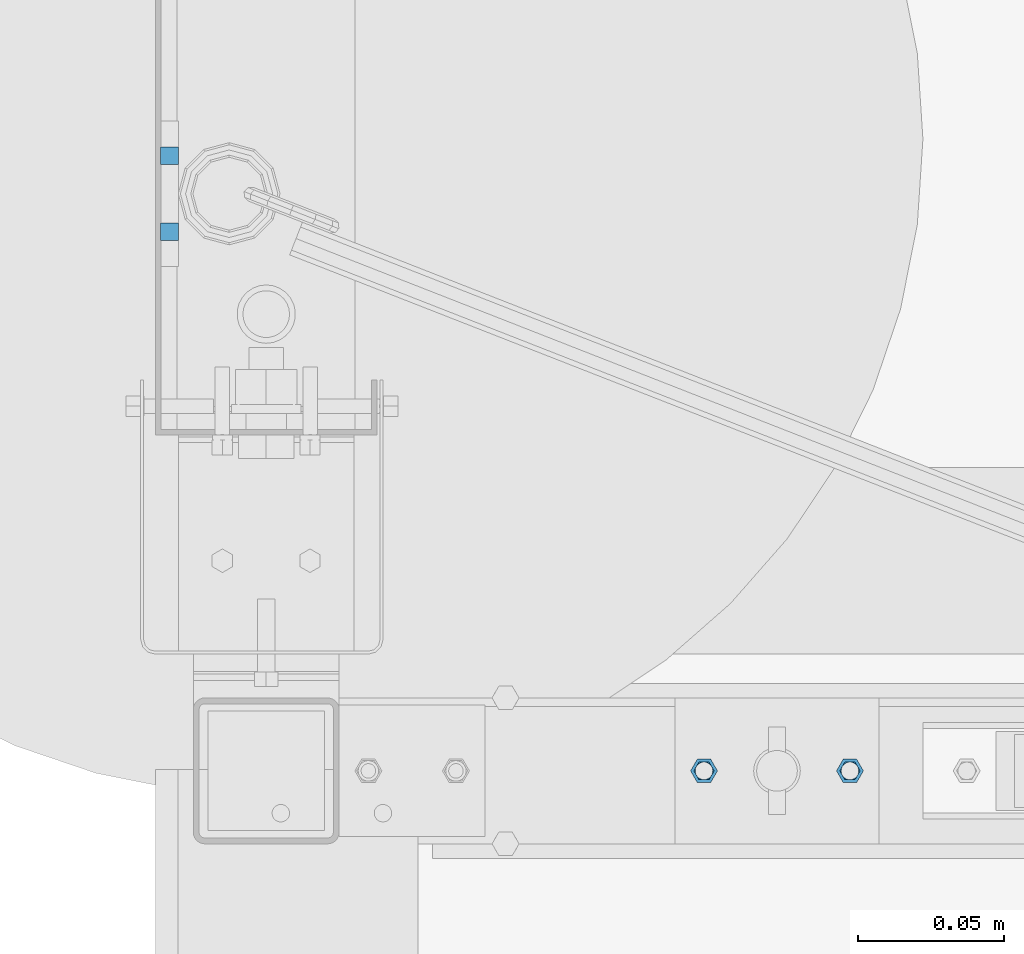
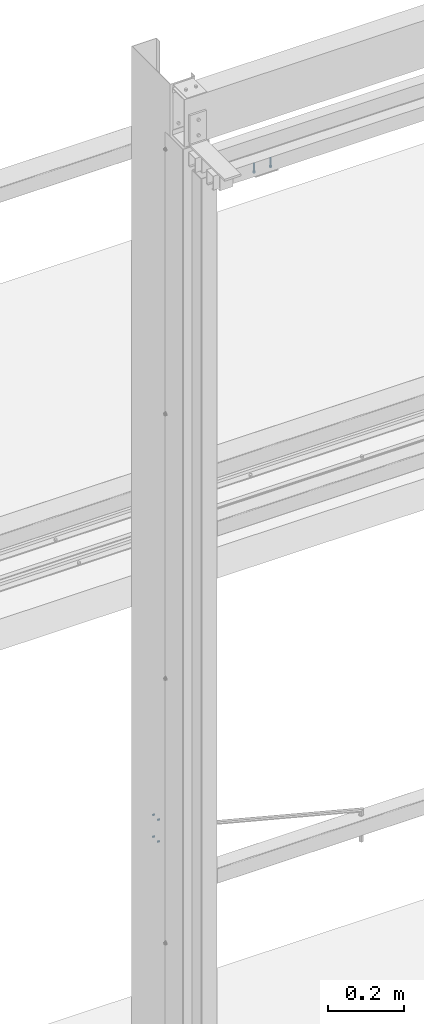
# One storey, part 25 of 91: 6 mechanical fasteners, 2 elements without a shape of their own.
"""IFC2X3 building model written with IfcOpenShell, lengths in millimetres."""

from ifc_helpers import new_model, si_unit, frame, origin_with_axes, origin_2d_with_axis, place, context, subcontext, project, spatial, polyline, circle, outline, extrude, source, transform, mapped, material, type_object, element, aggregate, save


model = new_model("IFC2X3")

# Units and contexts
model_context = context("Model", 3, precision=1e-05, world=origin_with_axes())
body_context = subcontext(model_context, "Body", "Model", "MODEL_VIEW")
ifc_project = project(units=[si_unit("LENGTHUNIT", "METRE", prefix="MILLI"), si_unit("AREAUNIT", "SQUARE_METRE"), si_unit("VOLUMEUNIT", "CUBIC_METRE"), si_unit("MASSUNIT", "GRAM", prefix="KILO"), si_unit("TIMEUNIT", "SECOND"), si_unit("PLANEANGLEUNIT", "RADIAN"), si_unit("SOLIDANGLEUNIT", "STERADIAN"), si_unit("THERMODYNAMICTEMPERATUREUNIT", "DEGREE_CELSIUS"), si_unit("LUMINOUSINTENSITYUNIT", "LUMEN")], contexts=[model_context])

# Site, building, storey
site_placement = place(None, origin_with_axes())
site = spatial("IfcSite", under=ifc_project, at=site_placement, Name="Undefined", CompositionType="ELEMENT")
building_placement = place(site_placement, origin_with_axes())
building = spatial("IfcBuilding", under=site, at=building_placement, Name="Undefined", CompositionType="ELEMENT")
storey_placement = place(building_placement, origin_with_axes())
storey = spatial("IfcBuildingStorey", under=building, at=storey_placement, Name="Undefined", CompositionType="ELEMENT", Elevation=0.0)

# Assembly, mechanical fasteners
assembly_1_placement = place(storey_placement, origin_with_axes())
assembly_1 = element("IfcElementAssembly", 1, at=assembly_1_placement, inside=storey, Name="SLIDING DOOR", AssemblyPlace="NOTDEFINED", PredefinedType="RIGID_FRAME")
ifc_material_1 = material(Name="TEK_11TPIM")
discrete_accessory_type = type_object("IfcDiscreteAccessoryType", Name="Bolt assembly")
shared_shape_1 = source(origin_with_axes(), body_context, "Body", "SweptSolid", [
    extrude(circle(Radius=3.0, at=origin_2d_with_axis()), frame((0.0, 0.0, 0.0), z_axis=(0.0, 1.0, 0.0), x_axis=(1.0, 0.0, 0.0)), (0.0, 0.0, 1.0), 2.1),
    extrude(outline(polyline([(4.61880215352, 0.0), (2.30940107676, 4.00000000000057), (-2.30940107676, 4.00000000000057), (-4.61880215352, 0.0), (-2.30940107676, -4.00000000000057), (2.30940107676, -4.00000000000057), (4.61880215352, 0.0)])), frame((0.0, -5.0, 0.0), z_axis=(0.0, 1.0, 0.0), x_axis=(1.0, 0.0, 0.0)), (0.0, 0.0, 1.0), 5.0),
    extrude(circle(Radius=3.0, at=origin_2d_with_axis()), frame((0.0, 0.0, 0.0), z_axis=(0.0, 1.0, 0.0), x_axis=(1.0, 0.0, 0.0)), (0.0, 0.0, 1.0), 25.0),
    extrude(circle(Radius=3.0, at=origin_2d_with_axis()), frame((0.0, 2.00000000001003, 0.0), z_axis=(0.0, 1.0, 0.0), x_axis=(1.0, 0.0, 0.0)), (0.0, 0.0, 1.0), 0.1),
    extrude(outline(polyline([(3.46410161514, 0.0), (1.73205080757, 3.00000000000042), (-1.73205080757, 3.00000000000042), (-3.46410161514, 0.0), (-1.73205080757, -3.00000000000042), (1.73205080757, -3.00000000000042), (3.46410161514, 0.0)])), frame((0.0, 2.10000000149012, 0.0), z_axis=(0.0, 1.0, 0.0), x_axis=(1.0, 0.0, 0.0)), (0.0, 0.0, 1.0), 0.1),
])
mechanical_fastener_1_placement = place(assembly_1_placement, frame((-116595.84, 84712.15, 3326.0), z_axis=(0.0, 1.0, 0.0), x_axis=(-1.0, 0.0, 0.0)))
mechanical_fastener_1 = element("IfcMechanicalFastener", 2, at=mechanical_fastener_1_placement, type_object=discrete_accessory_type, material=ifc_material_1, Name="Bolt assembly", NominalDiameter=6.0, NominalLength=25.0, context=body_context, shape_type="MappedRepresentation", body=[
    mapped(shared_shape_1, transform((0.0, 0.0, 0.0))),
])
mechanical_fastener_2_placement = place(assembly_1_placement, frame((-116645.84, 84712.15, 3326.0), z_axis=(0.0, -1.0, 0.0), x_axis=(1.0, 0.0, 0.0)))
mechanical_fastener_2 = element("IfcMechanicalFastener", 3, at=mechanical_fastener_2_placement, type_object=discrete_accessory_type, material=ifc_material_1, Name="Bolt assembly", NominalDiameter=6.0, NominalLength=25.0, context=body_context, shape_type="MappedRepresentation", body=[
    mapped(shared_shape_1, transform((0.0, 0.0, 0.0))),
])
aggregate(assembly_1, [mechanical_fastener_1, mechanical_fastener_2])

assembly_2_placement = place(storey_placement, origin_with_axes())
assembly_2 = element("IfcElementAssembly", 4, at=assembly_2_placement, inside=storey, Name="PLATE", AssemblyPlace="NOTDEFINED", PredefinedType="RIGID_FRAME")
ifc_material_2 = material(Name="8.8S")
shared_shape_2 = source(origin_with_axes(), body_context, "Body", "SweptSolid", [
    extrude(circle(Radius=3.0, at=origin_2d_with_axis()), frame((0.0, 0.0, 0.0), z_axis=(0.0, 1.0, 0.0), x_axis=(1.0, 0.0, 0.0)), (0.0, 0.0, 1.0), 6.1),
])
mechanical_fastener_3_placement = place(assembly_2_placement, frame((-116825.942606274, 84922.9017781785, 1127.34478745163), z_axis=(0.0, -1.0, 0.0), x_axis=(0.0, 0.0, 1.0)))
mechanical_fastener_3 = element("IfcMechanicalFastener", 5, at=mechanical_fastener_3_placement, type_object=discrete_accessory_type, material=ifc_material_2, Name="Bolt assembly", NominalDiameter=6.0, NominalLength=6.0, context=body_context, shape_type="MappedRepresentation", body=[
    mapped(shared_shape_2, transform((0.0, 0.0, 0.0))),
])
mechanical_fastener_4_placement = place(assembly_2_placement, frame((-116825.942606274, 84896.8982218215, 1127.34478745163), z_axis=(0.0, -1.0, 0.0), x_axis=(0.0, 0.0, 1.0)))
mechanical_fastener_4 = element("IfcMechanicalFastener", 6, at=mechanical_fastener_4_placement, type_object=discrete_accessory_type, material=ifc_material_2, Name="Bolt assembly", NominalDiameter=6.0, NominalLength=6.0, context=body_context, shape_type="MappedRepresentation", body=[
    mapped(shared_shape_2, transform((0.0, 0.0, 0.0))),
])
mechanical_fastener_5_placement = place(assembly_2_placement, frame((-116825.942606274, 84922.9017781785, 1197.34), z_axis=(0.0, 1.0, 0.0), x_axis=(0.0, 0.0, -1.0)))
mechanical_fastener_5 = element("IfcMechanicalFastener", 7, at=mechanical_fastener_5_placement, type_object=discrete_accessory_type, material=ifc_material_2, Name="Bolt assembly", NominalDiameter=6.0, NominalLength=6.0, context=body_context, shape_type="MappedRepresentation", body=[
    mapped(shared_shape_2, transform((0.0, 0.0, 0.0))),
])
mechanical_fastener_6_placement = place(assembly_2_placement, frame((-116825.942606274, 84896.8982218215, 1197.34), z_axis=(0.0, 1.0, 0.0), x_axis=(0.0, 0.0, -1.0)))
mechanical_fastener_6 = element("IfcMechanicalFastener", 8, at=mechanical_fastener_6_placement, type_object=discrete_accessory_type, material=ifc_material_2, Name="Bolt assembly", NominalDiameter=6.0, NominalLength=6.0, context=body_context, shape_type="MappedRepresentation", body=[
    mapped(shared_shape_2, transform((0.0, 0.0, 0.0))),
])
aggregate(assembly_2, [mechanical_fastener_3, mechanical_fastener_4, mechanical_fastener_5, mechanical_fastener_6])

save(model, "model.ifc")
